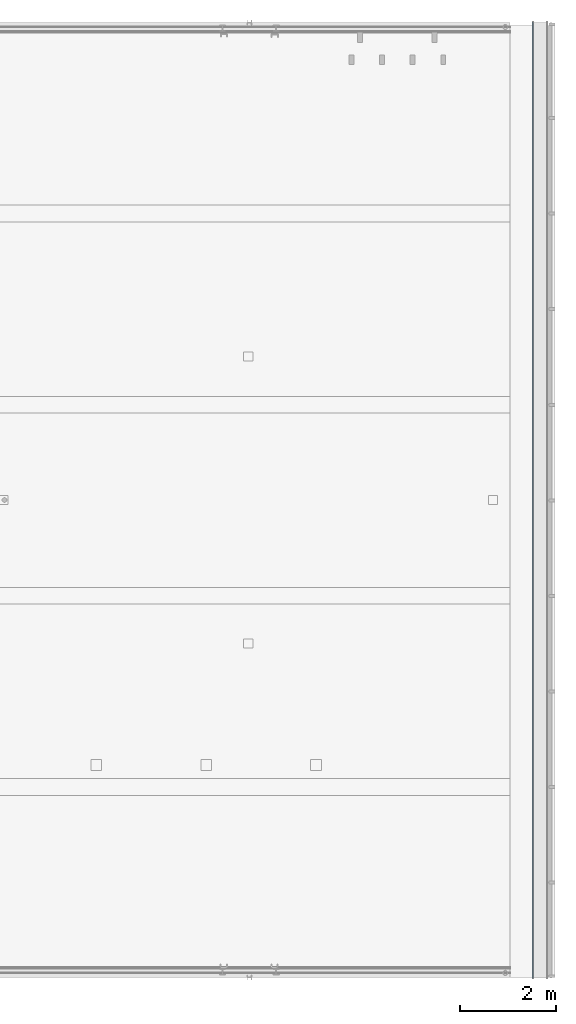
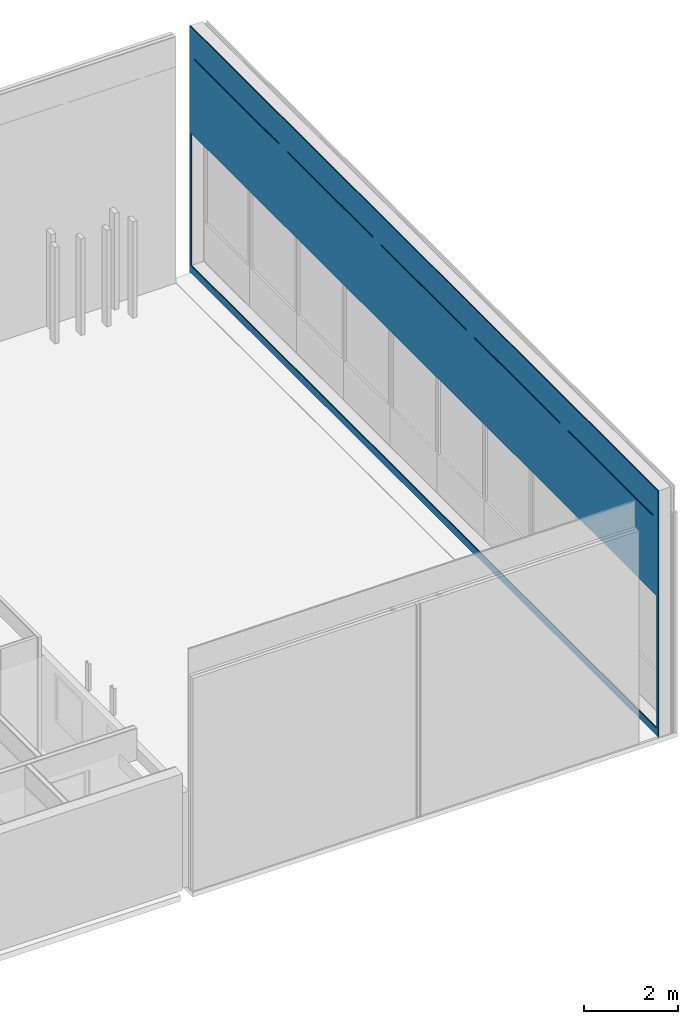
# One storey, part 20 of 35: 2 building element parts, 10 openings, 1 element without a shape of its own.
"""IFC2X3 building model written with IfcOpenShell, lengths in millimetres."""

from ifc_helpers import new_model, entity, si_unit, converted_unit, derived_unit, money_unit, direction, frame, origin_with_axes, place, context, subcontext, project, spatial, faceted_brep, material, type_object, element, aggregate, save


model = new_model("IFC2X3")

# Units and contexts
model_context = context("Model", 3, precision=0.01, world=origin_with_axes(), true_north=direction((0.0, 1.0)))
body_context = subcontext(model_context, "Body", "Model", "MODEL_VIEW")
ifc_project = project(units=[si_unit("LENGTHUNIT", "METRE", prefix="MILLI"), si_unit("AREAUNIT", "SQUARE_METRE"), si_unit("VOLUMEUNIT", "CUBIC_METRE"), converted_unit("PLANEANGLEUNIT", "DEGREE", entity("IfcPlaneAngleMeasure", 0.0174532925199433), si_unit("PLANEANGLEUNIT", "RADIAN"), dimensions=[0, 0, 0, 0, 0, 0, 0]), money_unit("EUR"), converted_unit("TIMEUNIT", "Year", entity("IfcTimeMeasure", 31557600.0), si_unit("TIMEUNIT", "SECOND"), dimensions=[0, 0, 1, 0, 0, 0, 0]), si_unit("MASSUNIT", "GRAM", prefix="KILO"), si_unit("THERMODYNAMICTEMPERATUREUNIT", "DEGREE_CELSIUS"), si_unit("LUMINOUSINTENSITYUNIT", "LUMEN"), si_unit("ENERGYUNIT", "JOULE", prefix="MEGA"), derived_unit("THERMALCONDUCTANCEUNIT", [(si_unit("POWERUNIT", "WATT"), 1), (si_unit("LENGTHUNIT", "METRE"), -1), (si_unit("THERMODYNAMICTEMPERATUREUNIT", "KELVIN"), -1)]), derived_unit("SPECIFICHEATCAPACITYUNIT", [(si_unit("ENERGYUNIT", "JOULE"), 1), (si_unit("MASSUNIT", "GRAM", prefix="KILO"), -1), (si_unit("THERMODYNAMICTEMPERATUREUNIT", "KELVIN"), -1)]), derived_unit("MASSDENSITYUNIT", [(si_unit("MASSUNIT", "GRAM", prefix="KILO"), 1), (si_unit("VOLUMEUNIT", "CUBIC_METRE"), -1)])], contexts=[model_context])

# Site, building, storey
site_placement = place(None, origin_with_axes())
site = spatial("IfcSite", under=ifc_project, at=site_placement, Name="<site naam>", CompositionType="ELEMENT")
building_placement = place(site_placement, origin_with_axes())
building = spatial("IfcBuilding", under=site, at=building_placement, Name="<Naam gebouw>", CompositionType="ELEMENT")
storey_placement = place(building_placement, frame((0.0, 0.0, 6345.0), z_axis=(0.0, 0.0, 1.0), x_axis=(1.0, 0.0, 0.0)))
storey = spatial("IfcBuildingStorey", under=building, at=storey_placement, Name="02 2e tussenverdieping", CompositionType="ELEMENT", Elevation=6345.0)

# Wall, openings, building element parts
wall_type = type_object("IfcWallType", Name="HSB_285 gevelbeplating 420", PredefinedType="NOTDEFINED")
wall_placement = place(storey_placement, frame((70205.99994042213, 3.585869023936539e-05, 0.0), z_axis=(0.0, 0.0, 1.0), x_axis=(0.0, 1.0, 0.0)))
wall = element("IfcWall", 1, at=wall_placement, inside=storey, type_object=wall_type, Name="21_Binnenwand_HSB_285")
opening_1_placement = place(wall_placement, frame((1029.999963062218, 0.0, 207.9999487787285), z_axis=(0.0, 0.0, 1.0), x_axis=(1.0, 0.0, 0.0)))
element("IfcOpeningElement", 2, at=opening_1_placement, cuts=wall, Name="21_BU-B-23_305", context=body_context, shape_type="Brep", body=[
    faceted_brep([(969.9999984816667, 6.000000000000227, 0.0), (969.9999984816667, 6.000000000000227, 3453.973203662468), (969.9999984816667, -1.000000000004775, 3453.973203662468), (969.9999984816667, -1.000000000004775, 0.0), (969.9999984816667, 421.0000000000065, 0.0), (969.9999984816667, 421.0000000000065, 3453.973203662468), (-969.9999984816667, 6.000000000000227, 3453.973203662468), (-969.9999984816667, -1.000000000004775, 3453.973203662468), (-969.9999984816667, -1.000000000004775, 0.0), (-969.9999984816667, 6.000000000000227, 0.0), (-969.9999984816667, 421.0000000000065, 0.0), (-969.9999984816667, 421.0000000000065, 3453.973203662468)], [[[0, 1, 2, 3]], [[1, 0, 4, 5]], [[1, 6, 7, 2]], [[7, 8, 3, 2]], [[9, 0, 3, 8]], [[0, 9, 10, 4]], [[5, 4, 10, 11]], [[6, 1, 5, 11]], [[6, 9, 8, 7]], [[9, 6, 11, 10]]]),
])
opening_2_placement = place(wall_placement, frame((4999.999964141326, 0.0, 207.9999487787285), z_axis=(0.0, 0.0, 1.0), x_axis=(1.0, 0.0, 0.0)))
element("IfcOpeningElement", 3, at=opening_2_placement, cuts=wall, Name="21_BU-B-24_305", context=body_context, shape_type="Brep", body=[
    faceted_brep([(999.9999999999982, 6.000000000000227, 0.0), (999.9999999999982, 6.000000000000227, 3453.973203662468), (999.9999999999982, -1.000000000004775, 3453.973203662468), (999.9999999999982, -1.000000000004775, 0.0), (999.9999999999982, 421.0000000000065, 0.0), (999.9999999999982, 421.0000000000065, 3453.973203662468), (-999.9999999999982, 6.000000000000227, 3453.973203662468), (-999.9999999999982, -1.000000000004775, 3453.973203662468), (-999.9999999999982, -1.000000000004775, 0.0), (-999.9999999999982, 6.000000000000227, 0.0), (-999.9999999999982, 421.0000000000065, 0.0), (-999.9999999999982, 421.0000000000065, 3453.973203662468)], [[[0, 1, 2, 3]], [[1, 0, 4, 5]], [[1, 6, 7, 2]], [[7, 8, 3, 2]], [[9, 0, 3, 8]], [[0, 9, 10, 4]], [[5, 4, 10, 11]], [[6, 1, 5, 11]], [[6, 9, 8, 7]], [[9, 6, 11, 10]]]),
])
opening_3_placement = place(wall_placement, frame((6999.999964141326, 0.0, 207.9999487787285), z_axis=(0.0, 0.0, 1.0), x_axis=(1.0, 0.0, 0.0)))
element("IfcOpeningElement", 4, at=opening_3_placement, cuts=wall, Name="21_BU-B-24_305", context=body_context, shape_type="Brep", body=[
    faceted_brep([(999.9999999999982, 6.000000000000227, 0.0), (999.9999999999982, 6.000000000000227, 3453.973203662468), (999.9999999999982, -1.000000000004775, 3453.973203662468), (999.9999999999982, -1.000000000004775, 0.0), (999.9999999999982, 421.0000000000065, 0.0), (999.9999999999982, 421.0000000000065, 3453.973203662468), (-999.9999999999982, 6.000000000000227, 3453.973203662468), (-999.9999999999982, -1.000000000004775, 3453.973203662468), (-999.9999999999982, -1.000000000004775, 0.0), (-999.9999999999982, 6.000000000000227, 0.0), (-999.9999999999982, 421.0000000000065, 0.0), (-999.9999999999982, 421.0000000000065, 3453.973203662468)], [[[0, 1, 2, 3]], [[1, 0, 4, 5]], [[1, 6, 7, 2]], [[7, 8, 3, 2]], [[9, 0, 3, 8]], [[0, 9, 10, 4]], [[5, 4, 10, 11]], [[6, 1, 5, 11]], [[6, 9, 8, 7]], [[9, 6, 11, 10]]]),
])
opening_4_placement = place(wall_placement, frame((10999.99996414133, 0.0, 207.9999487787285), z_axis=(0.0, 0.0, 1.0), x_axis=(1.0, 0.0, 0.0)))
element("IfcOpeningElement", 5, at=opening_4_placement, cuts=wall, Name="21_BU-B-24_305", context=body_context, shape_type="Brep", body=[
    faceted_brep([(999.9999999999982, 6.000000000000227, 0.0), (999.9999999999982, 6.000000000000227, 3453.973203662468), (999.9999999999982, -1.000000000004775, 3453.973203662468), (999.9999999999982, -1.000000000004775, 0.0), (999.9999999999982, 421.0000000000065, 0.0), (999.9999999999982, 421.0000000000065, 3453.973203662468), (-999.9999999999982, 6.000000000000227, 3453.973203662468), (-999.9999999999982, -1.000000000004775, 3453.973203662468), (-999.9999999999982, -1.000000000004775, 0.0), (-999.9999999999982, 6.000000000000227, 0.0), (-999.9999999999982, 421.0000000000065, 0.0), (-999.9999999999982, 421.0000000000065, 3453.973203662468)], [[[0, 1, 2, 3]], [[1, 0, 4, 5]], [[1, 6, 7, 2]], [[7, 8, 3, 2]], [[9, 0, 3, 8]], [[0, 9, 10, 4]], [[5, 4, 10, 11]], [[6, 1, 5, 11]], [[6, 9, 8, 7]], [[9, 6, 11, 10]]]),
])
opening_5_placement = place(wall_placement, frame((12999.99996414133, 0.0, 207.9999487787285), z_axis=(0.0, 0.0, 1.0), x_axis=(1.0, 0.0, 0.0)))
element("IfcOpeningElement", 6, at=opening_5_placement, cuts=wall, Name="21_BU-B-24_305", context=body_context, shape_type="Brep", body=[
    faceted_brep([(999.9999999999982, 6.000000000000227, 0.0), (999.9999999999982, 6.000000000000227, 3453.973203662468), (999.9999999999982, -1.000000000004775, 3453.973203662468), (999.9999999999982, -1.000000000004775, 0.0), (999.9999999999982, 421.0000000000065, 0.0), (999.9999999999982, 421.0000000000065, 3453.973203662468), (-999.9999999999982, 6.000000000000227, 3453.973203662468), (-999.9999999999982, -1.000000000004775, 3453.973203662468), (-999.9999999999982, -1.000000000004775, 0.0), (-999.9999999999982, 6.000000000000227, 0.0), (-999.9999999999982, 421.0000000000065, 0.0), (-999.9999999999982, 421.0000000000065, 3453.973203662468)], [[[0, 1, 2, 3]], [[1, 0, 4, 5]], [[1, 6, 7, 2]], [[7, 8, 3, 2]], [[9, 0, 3, 8]], [[0, 9, 10, 4]], [[5, 4, 10, 11]], [[6, 1, 5, 11]], [[6, 9, 8, 7]], [[9, 6, 11, 10]]]),
])
opening_6_placement = place(wall_placement, frame((8999.999964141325, 0.0, 207.9999487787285), z_axis=(0.0, 0.0, 1.0), x_axis=(1.0, 0.0, 0.0)))
element("IfcOpeningElement", 7, at=opening_6_placement, cuts=wall, Name="21_BU-B-24_305", context=body_context, shape_type="Brep", body=[
    faceted_brep([(999.9999999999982, 6.000000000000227, 0.0), (999.9999999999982, 6.000000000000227, 3453.973203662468), (999.9999999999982, -1.000000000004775, 3453.973203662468), (999.9999999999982, -1.000000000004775, 0.0), (999.9999999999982, 421.0000000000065, 0.0), (999.9999999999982, 421.0000000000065, 3453.973203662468), (-999.9999999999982, 6.000000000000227, 3453.973203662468), (-999.9999999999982, -1.000000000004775, 3453.973203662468), (-999.9999999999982, -1.000000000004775, 0.0), (-999.9999999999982, 6.000000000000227, 0.0), (-999.9999999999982, 421.0000000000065, 0.0), (-999.9999999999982, 421.0000000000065, 3453.973203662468)], [[[0, 1, 2, 3]], [[1, 0, 4, 5]], [[1, 6, 7, 2]], [[7, 8, 3, 2]], [[9, 0, 3, 8]], [[0, 9, 10, 4]], [[5, 4, 10, 11]], [[6, 1, 5, 11]], [[6, 9, 8, 7]], [[9, 6, 11, 10]]]),
])
opening_7_placement = place(wall_placement, frame((14999.99996414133, 0.0, 207.9999487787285), z_axis=(0.0, 0.0, 1.0), x_axis=(1.0, 0.0, 0.0)))
element("IfcOpeningElement", 8, at=opening_7_placement, cuts=wall, Name="21_BU-B-24_305", context=body_context, shape_type="Brep", body=[
    faceted_brep([(999.9999999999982, 6.000000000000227, 0.0), (999.9999999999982, 6.000000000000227, 3453.973203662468), (999.9999999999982, -1.000000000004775, 3453.973203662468), (999.9999999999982, -1.000000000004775, 0.0), (999.9999999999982, 421.0000000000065, 0.0), (999.9999999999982, 421.0000000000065, 3453.973203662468), (-999.9999999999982, 6.000000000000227, 3453.973203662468), (-999.9999999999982, -1.000000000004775, 3453.973203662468), (-999.9999999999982, -1.000000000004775, 0.0), (-999.9999999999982, 6.000000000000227, 0.0), (-999.9999999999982, 421.0000000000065, 0.0), (-999.9999999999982, 421.0000000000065, 3453.973203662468)], [[[0, 1, 2, 3]], [[1, 0, 4, 5]], [[1, 6, 7, 2]], [[7, 8, 3, 2]], [[9, 0, 3, 8]], [[0, 9, 10, 4]], [[5, 4, 10, 11]], [[6, 1, 5, 11]], [[6, 9, 8, 7]], [[9, 6, 11, 10]]]),
])
opening_8_placement = place(wall_placement, frame((18969.99996262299, 0.0, 207.9999487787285), z_axis=(0.0, 0.0, 1.0), x_axis=(1.0, 0.0, 0.0)))
element("IfcOpeningElement", 9, at=opening_8_placement, cuts=wall, Name="21_BU-B-23 sp_305", context=body_context, shape_type="Brep", body=[
    faceted_brep([(969.9999984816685, 6.000000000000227, 0.0), (969.9999984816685, 6.000000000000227, 3453.973203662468), (969.9999984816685, -1.000000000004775, 3453.973203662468), (969.9999984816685, -1.000000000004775, 0.0), (969.9999984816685, 421.0000000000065, 0.0), (969.9999984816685, 421.0000000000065, 3453.973203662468), (-969.9999984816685, 6.000000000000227, 3453.973203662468), (-969.9999984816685, -1.000000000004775, 3453.973203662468), (-969.9999984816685, -1.000000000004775, 0.0), (-969.9999984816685, 6.000000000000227, 0.0), (-969.9999984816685, 421.0000000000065, 0.0), (-969.9999984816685, 421.0000000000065, 3453.973203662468)], [[[0, 1, 2, 3]], [[1, 0, 4, 5]], [[1, 6, 7, 2]], [[7, 8, 3, 2]], [[9, 0, 3, 8]], [[0, 9, 10, 4]], [[5, 4, 10, 11]], [[6, 1, 5, 11]], [[6, 9, 8, 7]], [[9, 6, 11, 10]]]),
])
opening_9_placement = place(wall_placement, frame((16999.99996414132, 0.0, 207.9999487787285), z_axis=(0.0, 0.0, 1.0), x_axis=(1.0, 0.0, 0.0)))
element("IfcOpeningElement", 10, at=opening_9_placement, cuts=wall, Name="21_BU-B-24_305", context=body_context, shape_type="Brep", body=[
    faceted_brep([(1000.0, 6.000000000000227, 0.0), (1000.0, 6.000000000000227, 3453.973203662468), (1000.0, -1.000000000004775, 3453.973203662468), (1000.0, -1.000000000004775, 0.0), (1000.0, 421.0000000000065, 0.0), (1000.0, 421.0000000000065, 3453.973203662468), (-1000.0, 6.000000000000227, 3453.973203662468), (-1000.0, -1.000000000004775, 3453.973203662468), (-1000.0, -1.000000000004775, 0.0), (-1000.0, 6.000000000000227, 0.0), (-1000.0, 421.0000000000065, 0.0), (-1000.0, 421.0000000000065, 3453.973203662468)], [[[0, 1, 2, 3]], [[1, 0, 4, 5]], [[1, 6, 7, 2]], [[7, 8, 3, 2]], [[9, 0, 3, 8]], [[0, 9, 10, 4]], [[5, 4, 10, 11]], [[6, 1, 5, 11]], [[6, 9, 8, 7]], [[9, 6, 11, 10]]]),
])
opening_10_placement = place(wall_placement, frame((2999.999964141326, 0.0, 207.9999487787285), z_axis=(0.0, 0.0, 1.0), x_axis=(1.0, 0.0, 0.0)))
element("IfcOpeningElement", 11, at=opening_10_placement, cuts=wall, Name="21_BU-B-24_305", context=body_context, shape_type="Brep", body=[
    faceted_brep([(999.9999999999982, 6.000000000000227, 0.0), (999.9999999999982, 6.000000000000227, 3453.973203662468), (999.9999999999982, -1.000000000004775, 3453.973203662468), (999.9999999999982, -1.000000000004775, 0.0), (999.9999999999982, 421.0000000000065, 0.0), (999.9999999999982, 421.0000000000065, 3453.973203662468), (-999.9999999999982, 6.000000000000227, 3453.973203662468), (-999.9999999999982, -1.000000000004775, 3453.973203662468), (-999.9999999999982, -1.000000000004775, 0.0), (-999.9999999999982, 6.000000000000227, 0.0), (-999.9999999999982, 421.0000000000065, 0.0), (-999.9999999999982, 421.0000000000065, 3453.973203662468)], [[[0, 1, 2, 3]], [[1, 0, 4, 5]], [[1, 6, 7, 2]], [[7, 8, 3, 2]], [[9, 0, 3, 8]], [[0, 9, 10, 4]], [[5, 4, 10, 11]], [[6, 1, 5, 11]], [[6, 9, 8, 7]], [[9, 6, 11, 10]]]),
])
ifc_material_1 = material(Name="gipsplaat")
building_element_part_1_placement = place(wall_placement, origin_with_axes())
building_element_part_1 = element("IfcBuildingElementPart", 12, at=building_element_part_1_placement, material=ifc_material_1, Name="gipsplaat", context=body_context, shape_type="Brep", body=[
    faceted_brep([(10.91064225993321, 407.4999999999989, 0.0), (10.91064225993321, 407.4999999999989, 20.00000000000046), (19939.99996414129, 407.4999999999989, 20.00000000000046), (19939.99996414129, 407.4999999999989, 0.0), (19999.99996414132, 407.4999999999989, 0.0), (19999.99996414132, 407.4999999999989, 6425.0), (0.0, 407.4999999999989, 6425.0), (0.0, 407.4999999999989, 0.0), (3835.910677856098, 407.4999999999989, 5645.029654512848), (220.9106692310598, 407.4999999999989, 5645.029654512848), (220.9106692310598, 407.4999999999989, 5685.029654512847), (3835.910677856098, 407.4999999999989, 5685.029654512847), (15824.99991694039, 407.4999999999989, 5645.029654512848), (12174.99999848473, 407.4999999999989, 5645.029654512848), (12174.99999848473, 407.4999999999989, 5685.029654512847), (15824.99991694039, 407.4999999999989, 5685.029654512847), (11824.99996883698, 407.4999999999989, 5645.029654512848), (8175.00005038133, 407.4999999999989, 5645.029654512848), (8175.00005038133, 407.4999999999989, 5685.029654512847), (11824.99996883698, 407.4999999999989, 5685.029654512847), (7825.000018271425, 407.4999999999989, 5645.029654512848), (4185.910573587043, 407.4999999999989, 5645.029654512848), (4185.910573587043, 407.4999999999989, 5685.029654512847), (7825.000018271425, 407.4999999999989, 5685.029654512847), (19789.9999547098, 407.4999999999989, 5645.029654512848), (16174.99992894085, 407.4999999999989, 5645.029654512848), (16174.99992894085, 407.4999999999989, 5685.029654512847), (19789.9999547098, 407.4999999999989, 5685.029654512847), (10.91064225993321, 420.0000000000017, 0.0), (10.91064225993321, 420.0000000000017, 20.00000000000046), (19939.99996414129, 420.0000000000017, 20.00000000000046), (19939.99996414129, 420.0000000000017, 0.0), (19999.99996414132, 420.0000000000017, 0.0), (19999.99996414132, 420.0000000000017, 6425.0), (0.0, 420.0000000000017, 6425.0), (0.0, 420.0000000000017, 0.0), (220.9106692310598, 420.0000000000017, 5645.029654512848), (3835.910677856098, 420.0000000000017, 5645.029654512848), (220.9106692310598, 420.0000000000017, 5685.029654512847), (3835.910677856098, 420.0000000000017, 5685.029654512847), (12174.99999848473, 420.0000000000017, 5645.029654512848), (15824.99991694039, 420.0000000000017, 5645.029654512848), (12174.99999848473, 420.0000000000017, 5685.029654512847), (15824.99991694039, 420.0000000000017, 5685.029654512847), (8175.00005038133, 420.0000000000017, 5645.029654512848), (11824.99996883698, 420.0000000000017, 5645.029654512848), (8175.00005038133, 420.0000000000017, 5685.029654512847), (11824.99996883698, 420.0000000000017, 5685.029654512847), (4185.910573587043, 420.0000000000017, 5645.029654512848), (7825.000018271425, 420.0000000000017, 5645.029654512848), (4185.910573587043, 420.0000000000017, 5685.029654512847), (7825.000018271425, 420.0000000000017, 5685.029654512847), (16174.99992894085, 420.0000000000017, 5645.029654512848), (19789.9999547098, 420.0000000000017, 5645.029654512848), (16174.99992894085, 420.0000000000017, 5685.029654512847), (19789.9999547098, 420.0000000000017, 5685.029654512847)], [[[0, 1, 2, 3, 4, 5, 6, 7], [8, 9, 10, 11], [12, 13, 14, 15], [16, 17, 18, 19], [20, 21, 22, 23], [24, 25, 26, 27]], [[1, 0, 28, 29]], [[2, 1, 29, 30]], [[3, 2, 30, 31]], [[3, 31, 32, 4]], [[5, 4, 32, 33]], [[34, 6, 5, 33]], [[6, 34, 35, 7]], [[28, 0, 7, 35]], [[36, 9, 8, 37]], [[38, 10, 9, 36]], [[39, 11, 10, 38]], [[37, 8, 11, 39]], [[40, 13, 12, 41]], [[42, 14, 13, 40]], [[43, 15, 14, 42]], [[41, 12, 15, 43]], [[44, 17, 16, 45]], [[46, 18, 17, 44]], [[47, 19, 18, 46]], [[45, 16, 19, 47]], [[48, 21, 20, 49]], [[50, 22, 21, 48]], [[51, 23, 22, 50]], [[49, 20, 23, 51]], [[52, 25, 24, 53]], [[54, 26, 25, 52]], [[55, 27, 26, 54]], [[53, 24, 27, 55]], [[29, 28, 35, 34, 33, 32, 31, 30], [38, 36, 37, 39], [42, 40, 41, 43], [46, 44, 45, 47], [50, 48, 49, 51], [54, 52, 53, 55]]]),
])
ifc_material_2 = material(Name="hout_OSB")
building_element_part_2_placement = place(wall_placement, origin_with_axes())
building_element_part_2 = element("IfcBuildingElementPart", 13, at=building_element_part_2_placement, material=ifc_material_2, Name="hout_OSB", context=body_context, shape_type="Brep", body=[
    faceted_brep([(10.91064225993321, 392.4999999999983, 0.0), (10.91064225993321, 392.4999999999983, 20.00000000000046), (19939.99996414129, 392.4999999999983, 20.00000000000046), (19939.99996414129, 392.4999999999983, 0.0), (19999.99996414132, 392.4999999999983, 0.0), (19999.99996414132, 392.4999999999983, 6425.0), (0.0, 392.4999999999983, 6425.0), (0.0, 392.4999999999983, 0.0), (10.91064225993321, 407.4999999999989, 0.0), (10.91064225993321, 407.4999999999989, 20.00000000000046), (19939.99996414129, 407.4999999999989, 20.00000000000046), (19939.99996414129, 407.4999999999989, 0.0), (19999.99996414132, 407.4999999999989, 0.0), (19999.99996414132, 407.4999999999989, 6425.0), (0.0, 407.4999999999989, 6425.0), (0.0, 407.4999999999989, 0.0), (220.9106692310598, 407.4999999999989, 5685.029654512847), (220.9106692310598, 407.4999999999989, 5645.029654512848), (3835.910677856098, 407.4999999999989, 5645.029654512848), (3835.910677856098, 407.4999999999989, 5685.029654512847), (12174.99999848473, 407.4999999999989, 5685.029654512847), (12174.99999848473, 407.4999999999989, 5645.029654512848), (15824.99991694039, 407.4999999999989, 5645.029654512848), (15824.99991694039, 407.4999999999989, 5685.029654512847), (8175.00005038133, 407.4999999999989, 5685.029654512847), (8175.00005038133, 407.4999999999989, 5645.029654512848), (11824.99996883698, 407.4999999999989, 5645.029654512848), (11824.99996883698, 407.4999999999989, 5685.029654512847), (4185.910573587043, 407.4999999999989, 5685.029654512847), (4185.910573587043, 407.4999999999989, 5645.029654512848), (7825.000018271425, 407.4999999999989, 5645.029654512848), (7825.000018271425, 407.4999999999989, 5685.029654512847), (16174.99992894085, 407.4999999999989, 5685.029654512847), (16174.99992894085, 407.4999999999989, 5645.029654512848), (19789.9999547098, 407.4999999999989, 5645.029654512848), (19789.9999547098, 407.4999999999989, 5685.029654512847), (220.9106692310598, 393.9998742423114, 5645.029654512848), (220.9106692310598, 393.9998742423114, 5685.029654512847), (3835.910677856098, 393.9998742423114, 5645.029654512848), (3835.910677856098, 393.9998742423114, 5685.029654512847), (12174.99999848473, 393.9998870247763, 5645.029654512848), (12174.99999848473, 393.9998870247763, 5685.029654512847), (15824.99991694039, 393.9998870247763, 5645.029654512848), (15824.99991694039, 393.9998870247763, 5685.029654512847), (8175.00005038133, 393.9998870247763, 5645.029654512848), (8175.00005038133, 393.9998870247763, 5685.029654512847), (11824.99996883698, 393.9998870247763, 5645.029654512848), (11824.99996883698, 393.9998870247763, 5685.029654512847), (4185.910573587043, 393.9998870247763, 5645.029654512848), (4185.910573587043, 393.9998870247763, 5685.029654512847), (7825.000018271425, 393.9998870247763, 5645.029654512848), (7825.000018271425, 393.9998870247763, 5685.029654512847), (16174.99992894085, 393.9998870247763, 5645.029654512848), (16174.99992894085, 393.9998870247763, 5685.029654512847), (19789.9999547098, 393.9998870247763, 5645.029654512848), (19789.9999547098, 393.9998870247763, 5685.029654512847)], [[[0, 1, 2, 3, 4, 5, 6, 7]], [[1, 0, 8, 9]], [[2, 1, 9, 10]], [[3, 2, 10, 11]], [[3, 11, 12, 4]], [[5, 4, 12, 13]], [[14, 6, 5, 13]], [[6, 14, 15, 7]], [[8, 0, 7, 15]], [[9, 8, 15, 14, 13, 12, 11, 10], [16, 17, 18, 19], [20, 21, 22, 23], [24, 25, 26, 27], [28, 29, 30, 31], [32, 33, 34, 35]], [[36, 17, 16, 37]], [[38, 18, 17, 36]], [[39, 19, 18, 38]], [[37, 16, 19, 39]], [[40, 21, 20, 41]], [[42, 22, 21, 40]], [[43, 23, 22, 42]], [[41, 20, 23, 43]], [[44, 25, 24, 45]], [[46, 26, 25, 44]], [[47, 27, 26, 46]], [[45, 24, 27, 47]], [[48, 29, 28, 49]], [[50, 30, 29, 48]], [[51, 31, 30, 50]], [[49, 28, 31, 51]], [[52, 33, 32, 53]], [[54, 34, 33, 52]], [[55, 35, 34, 54]], [[53, 32, 35, 55]], [[38, 36, 37, 39]], [[42, 40, 41, 43]], [[46, 44, 45, 47]], [[50, 48, 49, 51]], [[54, 52, 53, 55]]]),
])
aggregate(wall, [building_element_part_1, building_element_part_2])

save(model, "model.ifc")
